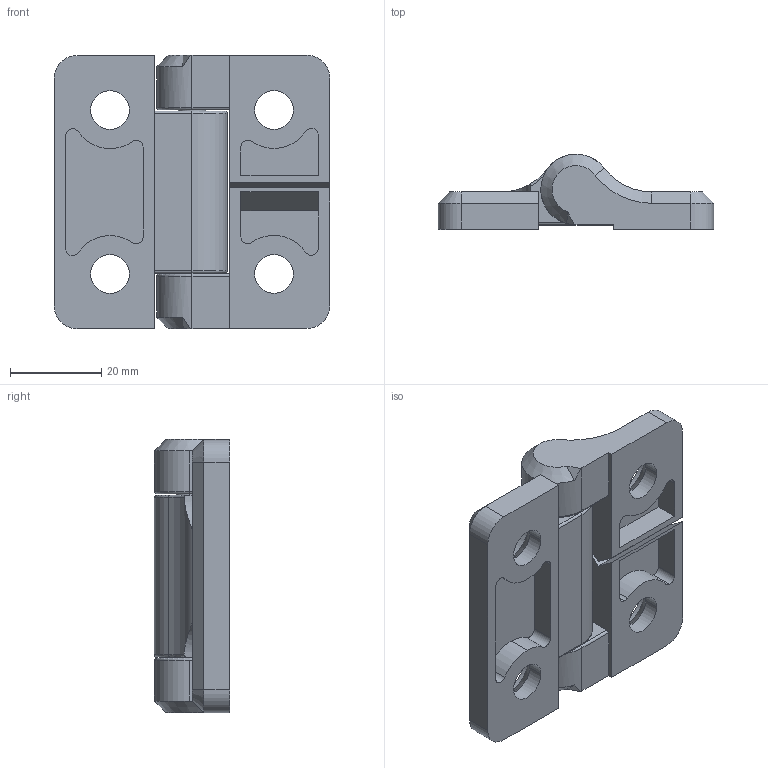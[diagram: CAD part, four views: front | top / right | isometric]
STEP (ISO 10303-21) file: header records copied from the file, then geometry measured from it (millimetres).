
FILE_DESCRIPTION (( 'STEP AP203' ), '1' );
FILE_NAME ('XG11-031-1.STEP', '2025-06-24T00:13:22', ( '微软用户' ), ( '微软中国' ), 'SwSTEP 2.0', 'SolidWorks 2024', '' );
FILE_SCHEMA (( 'CONFIG_CONTROL_DESIGN' ));
Length unit declared in the file: millimetre
Products named in the file (1): XG11-031-1
Bounding box: 60.5 x 16.48 x 60.04 mm (x, y, z)
Volume: 26565.4 mm3; surface area: 13878.9 mm2
Topology: 4 solids, 4 shells, 130 faces, 345 edges, 222 vertices
Faces by surface type: cylinder 55, plane 47, cone 16, torus 10, bspline 2
Entity records: 4472 total; most frequent: CARTESIAN_POINT 1042, DIRECTION 743, ORIENTED_EDGE 690, EDGE_CURVE 345, AXIS2_PLACEMENT_3D 283, VERTEX_POINT 222, VECTOR 177, LINE 177
